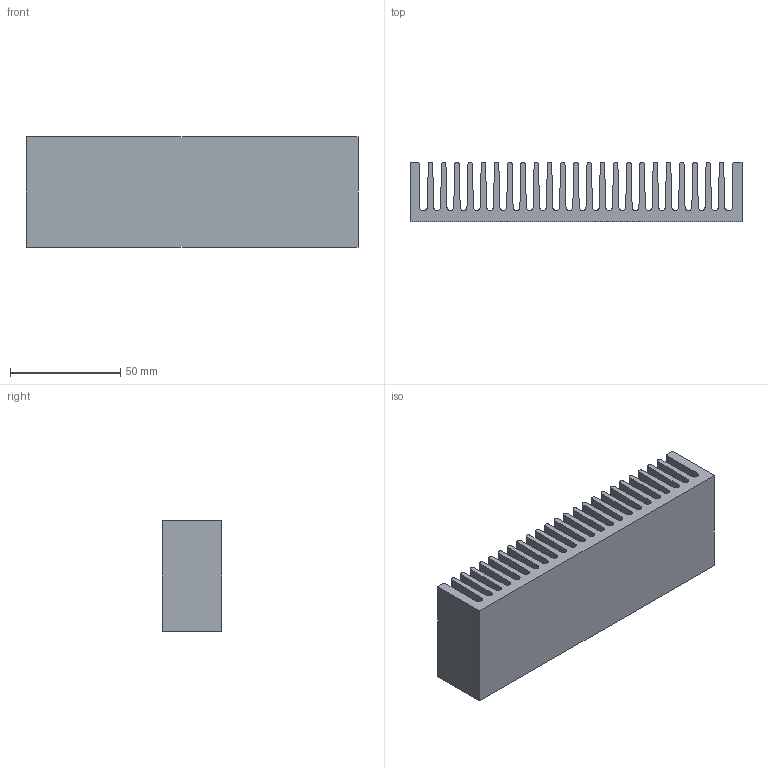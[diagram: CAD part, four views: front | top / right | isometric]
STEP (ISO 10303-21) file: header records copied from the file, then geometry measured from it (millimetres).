
FILE_DESCRIPTION (( 'STEP AP203' ), '1' );
FILE_NAME ('PR 162-50.step', '2002-10-21T07:58:46', ( 'Wolfgang Müller' ), ( 'DPS' ), 'SwSTEP 2.0', 'SolidWorks 2002264', '' );
FILE_SCHEMA (( 'CONFIG_CONTROL_DESIGN' ));
Length unit declared in the file: millimetre
Products named in the file (1): PR 162-50
Bounding box: 150.6 x 27 x 50 mm (x, y, z)
Volume: 110461.5 mm3; surface area: 71292.2 mm2
Topology: 1 solids, 1 shells, 104 faces, 306 edges, 204 vertices
Faces by surface type: plane 55, cylinder 49
Entity records: 3565 total; most frequent: CARTESIAN_POINT 615, DIRECTION 614, ORIENTED_EDGE 612, EDGE_CURVE 306, LINE 208, VECTOR 208, VERTEX_POINT 204, AXIS2_PLACEMENT_3D 203
